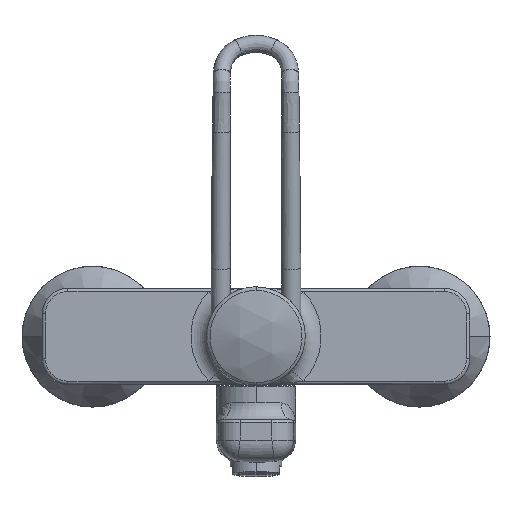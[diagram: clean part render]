
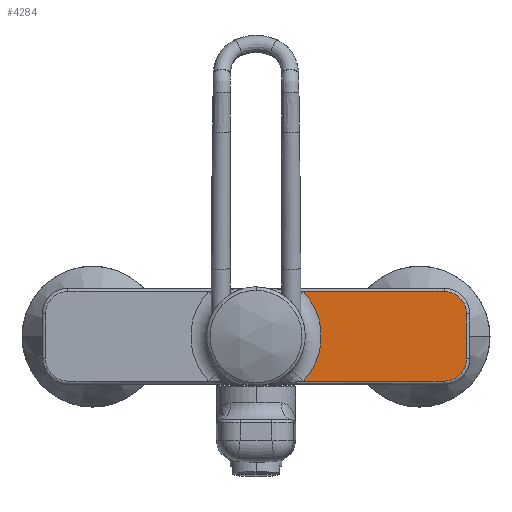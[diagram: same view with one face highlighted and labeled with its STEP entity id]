
A CAD part, top view. The second image highlights one B-rep face of the part: STEP entity #4284.
In plain terms, the highlighted planar face has unit normal (0, 0, 1).
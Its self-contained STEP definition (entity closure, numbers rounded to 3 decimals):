
#812=CARTESIAN_POINT('',(22.119,-21.,14.));
#826=CARTESIAN_POINT('',(0.,0.,14.));
#827=DIRECTION('',(0.,0.,-1.));
#828=DIRECTION('',(0.725,0.689,0.));
#829=AXIS2_PLACEMENT_3D('',#826,#827,#828);
#831=DIRECTION('',(1.,0.,0.));
#832=VECTOR('',#831,65.881);
#833=CARTESIAN_POINT('',(22.119,21.,14.));
#834=LINE('',#833,#832);
#835=CARTESIAN_POINT('',(88.,10.5,14.));
#836=DIRECTION('',(0.,0.,-1.));
#837=DIRECTION('',(0.,1.,0.));
#838=AXIS2_PLACEMENT_3D('',#835,#836,#837);
#840=DIRECTION('',(0.,-1.,0.));
#841=VECTOR('',#840,21.);
#842=CARTESIAN_POINT('',(98.5,10.5,14.));
#843=LINE('',#842,#841);
#844=CARTESIAN_POINT('',(88.,-10.5,14.));
#845=DIRECTION('',(0.,0.,-1.));
#846=DIRECTION('',(1.,0.,0.));
#847=AXIS2_PLACEMENT_3D('',#844,#845,#846);
#849=DIRECTION('',(-1.,0.,0.));
#850=VECTOR('',#849,65.881);
#851=CARTESIAN_POINT('',(88.,-21.,14.));
#852=LINE('',#851,#850);
#2889=CARTESIAN_POINT('',(98.5,-10.5,14.));
#2890=CARTESIAN_POINT('',(88.,-21.,14.));
#2891=VERTEX_POINT('',#2889);
#2892=VERTEX_POINT('',#2890);
#2895=CARTESIAN_POINT('',(98.5,10.5,14.));
#2896=VERTEX_POINT('',#2895);
#2899=CARTESIAN_POINT('',(88.,21.,14.));
#2900=VERTEX_POINT('',#2899);
#2920=VERTEX_POINT('',#812);
#2923=CARTESIAN_POINT('',(22.119,21.,14.));
#2924=VERTEX_POINT('',#2923);
#4268=CARTESIAN_POINT('',(-100.,-22.5,14.));
#4269=DIRECTION('',(0.,0.,1.));
#4270=DIRECTION('',(1.,0.,0.));
#4271=AXIS2_PLACEMENT_3D('',#4268,#4269,#4270);
#4272=PLANE('',#4271);
#4273=ORIENTED_EDGE('',*,*,#3879,.F.);
#4274=ORIENTED_EDGE('',*,*,#4002,.T.);
#4276=ORIENTED_EDGE('',*,*,#4275,.T.);
#4278=ORIENTED_EDGE('',*,*,#4277,.T.);
#4280=ORIENTED_EDGE('',*,*,#4279,.T.);
#4281=ORIENTED_EDGE('',*,*,#4260,.T.);
#4282=EDGE_LOOP('',(#4273,#4274,#4276,#4278,#4280,#4281));
#4283=FACE_OUTER_BOUND('',#4282,.F.);
#4284=ADVANCED_FACE('',(#4283),#4272,.T.);
#830=CIRCLE('',#829,30.5);
#839=CIRCLE('',#838,10.5);
#848=CIRCLE('',#847,10.5);
#3879=EDGE_CURVE('',#2924,#2920,#830,.T.);
#4002=EDGE_CURVE('',#2924,#2900,#834,.T.);
#4260=EDGE_CURVE('',#2892,#2920,#852,.T.);
#4275=EDGE_CURVE('',#2900,#2896,#839,.T.);
#4277=EDGE_CURVE('',#2896,#2891,#843,.T.);
#4279=EDGE_CURVE('',#2891,#2892,#848,.T.);
